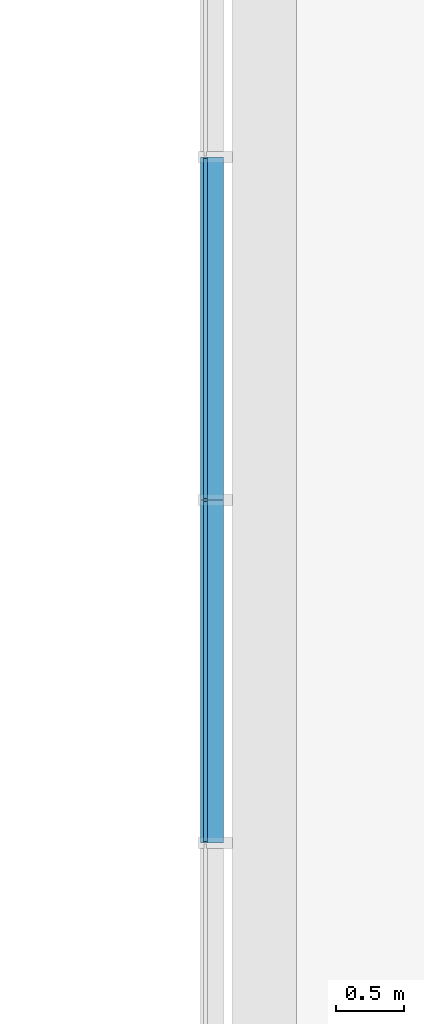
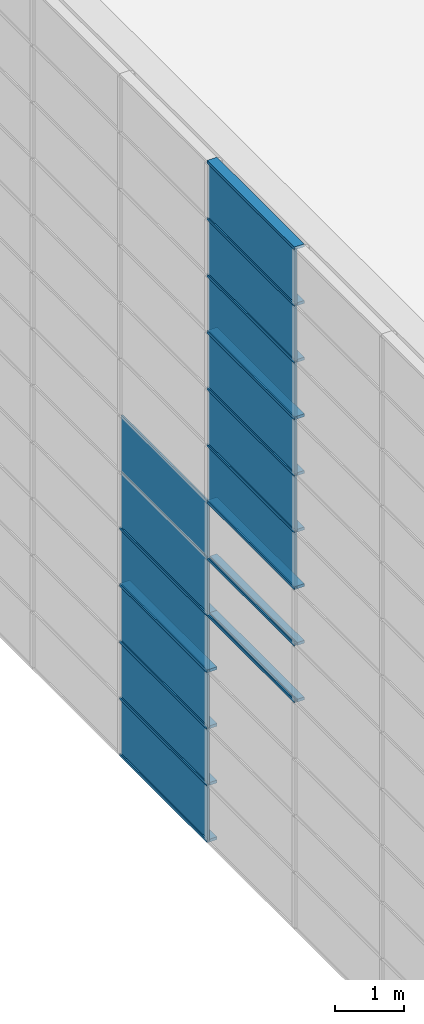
# One storey, part 15 of 105: 29 building element parts, 4 elements without a shape of their own.
"""IFC4 building model written with IfcOpenShell, lengths in millimetres."""

from ifc_helpers import new_model, entity, si_unit, converted_unit, derived_unit, direction, frame, origin_with_axes, place, context, subcontext, project, spatial, triangles, material, element, aggregate, save


model = new_model("IFC4")

# Units and contexts
model_context = context("Model", 3, precision=1e-05, world=origin_with_axes(), true_north=direction((0.0, 1.0)))
body_context = subcontext(model_context, "Body", "Model", "MODEL_VIEW")
ifc_project = project(units=[si_unit("LENGTHUNIT", "METRE", prefix="MILLI"), si_unit("AREAUNIT", "SQUARE_METRE"), si_unit("VOLUMEUNIT", "CUBIC_METRE"), converted_unit("PLANEANGLEUNIT", "DEGREE", entity("IfcLengthMeasure", 0.017453), si_unit("PLANEANGLEUNIT", "RADIAN"), dimensions=[0, 0, 0, 0, 0, 0, 0]), si_unit("SOLIDANGLEUNIT", "STERADIAN"), si_unit("MASSUNIT", "GRAM"), si_unit("TIMEUNIT", "SECOND"), si_unit("THERMODYNAMICTEMPERATUREUNIT", "DEGREE_CELSIUS"), si_unit("LUMINOUSINTENSITYUNIT", "LUMEN"), si_unit("POWERUNIT", "WATT"), derived_unit("THERMALTRANSMITTANCEUNIT", [(si_unit("POWERUNIT", "WATT"), 1), (si_unit("THERMODYNAMICTEMPERATUREUNIT", "KELVIN"), -1), (si_unit("AREAUNIT", "SQUARE_METRE"), -1)])], contexts=[model_context])

# Site, building, storey
site_placement = place(None, origin_with_axes())
site = spatial("IfcSite", under=ifc_project, at=site_placement, Name="Default Site", CompositionType="ELEMENT")
building_placement = place(site_placement, origin_with_axes())
building = spatial("IfcBuilding", under=site, at=building_placement, Name="Default Building", CompositionType="ELEMENT")
storey_placement = place(building_placement, origin_with_axes())
storey = spatial("IfcBuildingStorey", under=building, at=storey_placement, Name="OG - Story", CompositionType="ELEMENT", Elevation=0.0)

# Curtain wall, building element parts
curtain_wall_1_placement = place(storey_placement, origin_with_axes())
curtain_wall_1 = element("IfcCurtainWall", 1, at=curtain_wall_1_placement, inside=storey, Name="Fassade-003", PredefinedType="NOTDEFINED")
ifc_material_1 = material(Name="Normalglas")
building_element_part_1_placement = place(curtain_wall_1_placement, frame((31551.391327, -51326.104944, 0.0), z_axis=(0.0, 0.0, 1.0), x_axis=(1.0, 0.0, 0.0)))
building_element_part_1 = element("IfcBuildingElementPart", 2, at=building_element_part_1_placement, material=ifc_material_1, Name="Normalglas", PredefinedType="NOTDEFINED", context=body_context, shape_type="Tessellation", body=[
    triangles([(15.0, 26516.316, 995.0), (-14.999, 26516.316, 995.0), (-14.999, 24010.0, 995.0), (15.0, 24010.0, 995.0), (15.0, 26516.316, 5.0), (-14.999, 26516.316, 5.0), (-14.999, 24010.0, 5.0), (15.0, 24010.0, 5.0)], [[1, 2, 3], [1, 3, 4], [5, 6, 2], [5, 2, 1], [2, 6, 7], [2, 7, 3], [4, 3, 7], [4, 7, 8], [1, 4, 8], [1, 8, 5], [8, 7, 6], [8, 6, 5]], closed=False),
])
building_element_part_2_placement = place(curtain_wall_1_placement, frame((31551.391327, -51326.104944, 0.0), z_axis=(0.0, 0.0, 1.0), x_axis=(1.0, 0.0, 0.0)))
building_element_part_2 = element("IfcBuildingElementPart", 3, at=building_element_part_2_placement, material=ifc_material_1, Name="Normalglas", PredefinedType="NOTDEFINED", context=body_context, shape_type="Tessellation", body=[
    triangles([(15.0, 26516.316, 1995.0), (-14.999, 26516.316, 1995.0), (-14.999, 24010.0, 1995.0), (15.0, 24010.0, 1995.0), (15.0, 26516.316, 1005.0), (-14.999, 26516.316, 1005.0), (-14.999, 24010.0, 1005.0), (15.0, 24010.0, 1005.0)], [[1, 2, 3], [1, 3, 4], [5, 6, 2], [5, 2, 1], [2, 6, 7], [2, 7, 3], [4, 3, 7], [4, 7, 8], [1, 4, 8], [1, 8, 5], [8, 7, 6], [8, 6, 5]], closed=False),
])
building_element_part_3_placement = place(curtain_wall_1_placement, frame((31551.391327, -51326.104944, 0.0), z_axis=(0.0, 0.0, 1.0), x_axis=(1.0, 0.0, 0.0)))
building_element_part_3 = element("IfcBuildingElementPart", 4, at=building_element_part_3_placement, material=ifc_material_1, Name="Normalglas", PredefinedType="NOTDEFINED", context=body_context, shape_type="Tessellation", body=[
    triangles([(15.0, 26516.316, 2995.0), (-14.999, 26516.316, 2995.0), (-14.999, 24010.0, 2995.0), (15.0, 24010.0, 2995.0), (15.0, 26516.316, 2005.0), (-14.999, 26516.316, 2005.0), (-14.999, 24010.0, 2005.0), (15.0, 24010.0, 2005.0)], [[1, 2, 3], [1, 3, 4], [5, 6, 2], [5, 2, 1], [2, 6, 7], [2, 7, 3], [4, 3, 7], [4, 7, 8], [1, 4, 8], [1, 8, 5], [8, 7, 6], [8, 6, 5]], closed=False),
])
ifc_material_2 = material(Name="Blech")
building_element_part_4_placement = place(curtain_wall_1_placement, frame((31551.391327, -51326.104944, 0.0), z_axis=(0.0, 0.0, 1.0), x_axis=(1.0, 0.0, 0.0)))
building_element_part_4 = element("IfcBuildingElementPart", 5, at=building_element_part_4_placement, material=ifc_material_2, Name="Blech", PredefinedType="NOTDEFINED", context=body_context, shape_type="Tessellation", body=[
    triangles([(15.0, 26526.316, 25.0), (133.0, 26526.316, 25.0), (15.0, 26526.316, 5.0), (133.0, 26526.316, -24.999), (-14.999, 26526.316, 5.0), (-34.999, 26526.316, -24.999), (-34.999, 26526.316, 25.0), (-14.999, 26526.316, 25.0), (15.0, 24000.0, 5.0), (15.0, 24000.0, 25.0), (133.0, 24000.0, 25.0), (133.0, 24000.0, -24.999), (-34.999, 24000.0, -24.999), (-34.999, 24000.0, 25.0), (-14.999, 24000.0, 25.0), (-14.999, 24000.0, 5.0)], [[1, 2, 3], [3, 2, 4], [3, 4, 5], [5, 4, 6], [5, 6, 7], [5, 7, 8], [3, 9, 10], [3, 10, 1], [10, 11, 2], [10, 2, 1], [11, 12, 4], [11, 4, 2], [12, 13, 6], [12, 6, 4], [13, 14, 7], [13, 7, 6], [8, 7, 14], [8, 14, 15], [15, 16, 5], [15, 5, 8], [5, 16, 9], [5, 9, 3], [16, 9, 12], [16, 12, 13], [16, 13, 14], [16, 14, 15], [11, 12, 9], [11, 9, 10]], closed=False),
])
building_element_part_5_placement = place(curtain_wall_1_placement, frame((31551.391327, -51326.104944, 0.0), z_axis=(0.0, 0.0, 1.0), x_axis=(1.0, 0.0, 0.0)))
building_element_part_5 = element("IfcBuildingElementPart", 6, at=building_element_part_5_placement, material=ifc_material_2, Name="Blech", PredefinedType="NOTDEFINED", context=body_context, shape_type="Tessellation", body=[
    triangles([(-14.999, 26526.316, 1025.0), (-34.999, 26526.316, 1025.0), (-14.999, 26526.316, 1005.0), (-14.999, 26526.316, 995.0), (15.0, 26526.316, 1005.0), (133.0, 26526.316, 1025.0), (15.0, 26526.316, 1025.0), (-34.999, 26526.316, 975.0), (-14.999, 26526.316, 975.0), (15.0, 26526.316, 995.0), (15.0, 26526.316, 975.0), (133.0, 26526.316, 975.0), (15.0, 24000.0, 995.0), (-14.999, 24000.0, 995.0), (-14.999, 24000.0, 975.0), (-34.999, 24000.0, 975.0), (-34.999, 24000.0, 1025.0), (-14.999, 24000.0, 1025.0), (-14.999, 24000.0, 1005.0), (15.0, 24000.0, 1005.0), (15.0, 24000.0, 1025.0), (133.0, 24000.0, 1025.0), (133.0, 24000.0, 975.0), (15.0, 24000.0, 975.0)], [[1, 2, 3], [3, 2, 4], [3, 4, 5], [5, 4, 6], [5, 6, 7], [8, 9, 4], [8, 4, 2], [6, 4, 10], [6, 10, 11], [6, 11, 12], [10, 13, 14], [10, 14, 4], [4, 14, 15], [4, 15, 9], [15, 16, 8], [15, 8, 9], [8, 16, 17], [8, 17, 2], [18, 1, 2], [18, 2, 17], [1, 18, 19], [1, 19, 3], [5, 3, 19], [5, 19, 20], [7, 5, 20], [7, 20, 21], [7, 21, 22], [7, 22, 6], [6, 22, 23], [6, 23, 12], [11, 12, 23], [11, 23, 24], [11, 24, 13], [11, 13, 10], [21, 22, 20], [20, 22, 13], [20, 13, 19], [19, 13, 14], [19, 14, 17], [17, 14, 15], [17, 15, 16], [23, 24, 13], [23, 13, 22], [19, 17, 18]], closed=False),
])
building_element_part_6_placement = place(curtain_wall_1_placement, frame((31551.391327, -51326.104944, 0.0), z_axis=(0.0, 0.0, 1.0), x_axis=(1.0, 0.0, 0.0)))
building_element_part_6 = element("IfcBuildingElementPart", 7, at=building_element_part_6_placement, material=ifc_material_2, Name="Blech", PredefinedType="NOTDEFINED", context=body_context, shape_type="Tessellation", body=[
    triangles([(-14.999, 26526.316, 2025.0), (-34.999, 26526.316, 2025.0), (-14.999, 26526.316, 2005.0), (-14.999, 26526.316, 1995.0), (15.0, 26526.316, 2005.0), (133.0, 26526.316, 2025.0), (15.0, 26526.316, 2025.0), (-34.999, 26526.316, 1975.0), (-14.999, 26526.316, 1975.0), (15.0, 26526.316, 1995.0), (15.0, 26526.316, 1975.0), (133.0, 26526.316, 1975.0), (15.0, 24000.0, 1995.0), (-14.999, 24000.0, 1995.0), (-14.999, 24000.0, 1975.0), (-34.999, 24000.0, 1975.0), (-34.999, 24000.0, 2025.0), (-14.999, 24000.0, 2025.0), (-14.999, 24000.0, 2005.0), (15.0, 24000.0, 2005.0), (15.0, 24000.0, 2025.0), (133.0, 24000.0, 2025.0), (133.0, 24000.0, 1975.0), (15.0, 24000.0, 1975.0)], [[1, 2, 3], [3, 2, 4], [3, 4, 5], [5, 4, 6], [5, 6, 7], [8, 9, 4], [8, 4, 2], [6, 4, 10], [6, 10, 11], [6, 11, 12], [10, 13, 14], [10, 14, 4], [4, 14, 15], [4, 15, 9], [15, 16, 8], [15, 8, 9], [8, 16, 17], [8, 17, 2], [18, 1, 2], [18, 2, 17], [1, 18, 19], [1, 19, 3], [5, 3, 19], [5, 19, 20], [7, 5, 20], [7, 20, 21], [7, 21, 22], [7, 22, 6], [6, 22, 23], [6, 23, 12], [11, 12, 23], [11, 23, 24], [11, 24, 13], [11, 13, 10], [21, 22, 20], [20, 22, 13], [20, 13, 19], [19, 13, 14], [19, 14, 17], [17, 14, 15], [17, 15, 16], [23, 24, 13], [23, 13, 22], [19, 17, 18]], closed=False),
])
building_element_part_7_placement = place(curtain_wall_1_placement, frame((31551.391327, -51326.104944, 0.0), z_axis=(0.0, 0.0, 1.0), x_axis=(1.0, 0.0, 0.0)))
building_element_part_7 = element("IfcBuildingElementPart", 8, at=building_element_part_7_placement, material=ifc_material_2, Name="Blech", PredefinedType="NOTDEFINED", context=body_context, shape_type="Tessellation", body=[
    triangles([(-14.999, 26526.316, 2995.0), (15.0, 26526.316, 2995.0), (133.0, 26526.316, 3025.0), (-34.999, 26526.316, 3025.0), (-34.999, 26526.316, 2975.0), (-14.999, 26526.316, 2975.0), (15.0, 26526.316, 2975.0), (133.0, 26526.316, 2975.0), (15.0, 24000.0, 2995.0), (-14.999, 24000.0, 2995.0), (-14.999, 24000.0, 2975.0), (-34.999, 24000.0, 2975.0), (-34.999, 24000.0, 3025.0), (133.0, 24000.0, 3025.0), (133.0, 24000.0, 2975.0), (15.0, 24000.0, 2975.0)], [[1, 2, 3], [1, 3, 4], [1, 4, 5], [1, 5, 6], [7, 8, 3], [7, 3, 2], [1, 2, 9], [1, 9, 10], [11, 6, 1], [11, 1, 10], [6, 11, 12], [6, 12, 5], [13, 4, 5], [13, 5, 12], [14, 3, 4], [14, 4, 13], [15, 8, 3], [15, 3, 14], [16, 7, 8], [16, 8, 15], [2, 7, 16], [2, 16, 9], [10, 9, 14], [10, 14, 13], [10, 13, 12], [10, 12, 11], [16, 15, 14], [16, 14, 9]], closed=False),
])
aggregate(curtain_wall_1, [building_element_part_1, building_element_part_2, building_element_part_3, building_element_part_4, building_element_part_5, building_element_part_6, building_element_part_7])

curtain_wall_2_placement = place(storey_placement, origin_with_axes())
curtain_wall_2 = element("IfcCurtainWall", 9, at=curtain_wall_2_placement, inside=storey, Name="Fassade-003", PredefinedType="NOTDEFINED")
building_element_part_8_placement = place(curtain_wall_2_placement, frame((31551.391327, -51326.104944, 3000.0), z_axis=(0.0, 0.0, 1.0), x_axis=(1.0, 0.0, 0.0)))
building_element_part_8 = element("IfcBuildingElementPart", 10, at=building_element_part_8_placement, material=ifc_material_1, Name="Normalglas", PredefinedType="NOTDEFINED", context=body_context, shape_type="Tessellation", body=[
    triangles([(15.0, 26516.316, 995.0), (-14.999, 26516.316, 995.0), (-14.999, 24010.0, 995.0), (15.0, 24010.0, 995.0), (15.0, 26516.316, 5.0), (-14.999, 26516.316, 5.0), (-14.999, 24010.0, 5.0), (15.0, 24010.0, 5.0)], [[1, 2, 3], [1, 3, 4], [5, 6, 2], [5, 2, 1], [2, 6, 7], [2, 7, 3], [4, 3, 7], [4, 7, 8], [1, 4, 8], [1, 8, 5], [8, 7, 6], [8, 6, 5]], closed=False),
])
building_element_part_9_placement = place(curtain_wall_2_placement, frame((31551.391327, -51326.104944, 3000.0), z_axis=(0.0, 0.0, 1.0), x_axis=(1.0, 0.0, 0.0)))
building_element_part_9 = element("IfcBuildingElementPart", 11, at=building_element_part_9_placement, material=ifc_material_1, Name="Normalglas", PredefinedType="NOTDEFINED", context=body_context, shape_type="Tessellation", body=[
    triangles([(15.0, 26516.316, 1995.0), (-14.999, 26516.316, 1995.0), (-14.999, 24010.0, 1995.0), (15.0, 24010.0, 1995.0), (15.0, 26516.316, 1005.0), (-14.999, 26516.316, 1005.0), (-14.999, 24010.0, 1005.0), (15.0, 24010.0, 1005.0)], [[1, 2, 3], [1, 3, 4], [5, 6, 2], [5, 2, 1], [2, 6, 7], [2, 7, 3], [4, 3, 7], [4, 7, 8], [1, 4, 8], [1, 8, 5], [8, 7, 6], [8, 6, 5]], closed=False),
])
building_element_part_10_placement = place(curtain_wall_2_placement, frame((31551.391327, -51326.104944, 3000.0), z_axis=(0.0, 0.0, 1.0), x_axis=(1.0, 0.0, 0.0)))
building_element_part_10 = element("IfcBuildingElementPart", 12, at=building_element_part_10_placement, material=ifc_material_1, Name="Normalglas", PredefinedType="NOTDEFINED", context=body_context, shape_type="Tessellation", body=[
    triangles([(15.0, 26516.316, 2995.0), (-14.999, 26516.316, 2995.0), (-14.999, 24010.0, 2995.0), (15.0, 24010.0, 2995.0), (15.0, 26516.316, 2005.0), (-14.999, 26516.316, 2005.0), (-14.999, 24010.0, 2005.0), (15.0, 24010.0, 2005.0)], [[1, 2, 3], [1, 3, 4], [5, 6, 2], [5, 2, 1], [2, 6, 7], [2, 7, 3], [4, 3, 7], [4, 7, 8], [1, 4, 8], [1, 8, 5], [8, 7, 6], [8, 6, 5]], closed=False),
])
building_element_part_11_placement = place(curtain_wall_2_placement, frame((31551.391327, -51326.104944, 3000.0), z_axis=(0.0, 0.0, 1.0), x_axis=(1.0, 0.0, 0.0)))
building_element_part_11 = element("IfcBuildingElementPart", 13, at=building_element_part_11_placement, material=ifc_material_2, Name="Blech", PredefinedType="NOTDEFINED", context=body_context, shape_type="Tessellation", body=[
    triangles([(15.0, 26526.316, 25.0), (133.0, 26526.316, 25.0), (15.0, 26526.316, 5.0), (133.0, 26526.316, -24.999), (-14.999, 26526.316, 5.0), (-34.999, 26526.316, -24.999), (-34.999, 26526.316, 25.0), (-14.999, 26526.316, 25.0), (15.0, 24000.0, 5.0), (15.0, 24000.0, 25.0), (133.0, 24000.0, 25.0), (133.0, 24000.0, -24.999), (-34.999, 24000.0, -24.999), (-34.999, 24000.0, 25.0), (-14.999, 24000.0, 25.0), (-14.999, 24000.0, 5.0)], [[1, 2, 3], [3, 2, 4], [3, 4, 5], [5, 4, 6], [5, 6, 7], [5, 7, 8], [3, 9, 10], [3, 10, 1], [10, 11, 2], [10, 2, 1], [11, 12, 4], [11, 4, 2], [12, 13, 6], [12, 6, 4], [13, 14, 7], [13, 7, 6], [8, 7, 14], [8, 14, 15], [15, 16, 5], [15, 5, 8], [5, 16, 9], [5, 9, 3], [16, 9, 12], [16, 12, 13], [16, 13, 14], [16, 14, 15], [11, 12, 9], [11, 9, 10]], closed=False),
])
building_element_part_12_placement = place(curtain_wall_2_placement, frame((31551.391327, -51326.104944, 3000.0), z_axis=(0.0, 0.0, 1.0), x_axis=(1.0, 0.0, 0.0)))
building_element_part_12 = element("IfcBuildingElementPart", 14, at=building_element_part_12_placement, material=ifc_material_2, Name="Blech", PredefinedType="NOTDEFINED", context=body_context, shape_type="Tessellation", body=[
    triangles([(-14.999, 24000.0, 1025.0), (-34.999, 24000.0, 1025.0), (-14.999, 24000.0, 1005.0), (-14.999, 24000.0, 995.0), (15.0, 24000.0, 1005.0), (133.0, 24000.0, 1025.0), (15.0, 24000.0, 1025.0), (-34.999, 24000.0, 975.0), (-14.999, 24000.0, 975.0), (15.0, 24000.0, 995.0), (15.0, 24000.0, 975.0), (133.0, 24000.0, 975.0), (15.0, 21473.684, 995.0), (-14.999, 21473.684, 995.0), (-14.999, 21473.684, 975.0), (-34.999, 21473.684, 975.0), (-34.999, 21473.684, 1025.0), (-14.999, 21473.684, 1025.0), (-14.999, 21473.684, 1005.0), (15.0, 21473.684, 1005.0), (15.0, 21473.684, 1025.0), (133.0, 21473.684, 1025.0), (133.0, 21473.684, 975.0), (15.0, 21473.684, 975.0)], [[1, 2, 3], [3, 2, 4], [3, 4, 5], [5, 4, 6], [5, 6, 7], [8, 9, 4], [8, 4, 2], [6, 4, 10], [6, 10, 11], [6, 11, 12], [10, 13, 14], [10, 14, 4], [4, 14, 15], [4, 15, 9], [15, 16, 8], [15, 8, 9], [8, 16, 17], [8, 17, 2], [18, 1, 2], [18, 2, 17], [1, 18, 19], [1, 19, 3], [5, 3, 19], [5, 19, 20], [7, 5, 20], [7, 20, 21], [7, 21, 22], [7, 22, 6], [6, 22, 23], [6, 23, 12], [11, 12, 23], [11, 23, 24], [11, 24, 13], [11, 13, 10], [21, 22, 20], [20, 22, 13], [20, 13, 19], [19, 13, 14], [19, 14, 17], [17, 14, 15], [17, 15, 16], [23, 24, 13], [23, 13, 22], [19, 17, 18]], closed=False),
])
building_element_part_13_placement = place(curtain_wall_2_placement, frame((31551.391327, -51326.104944, 3000.0), z_axis=(0.0, 0.0, 1.0), x_axis=(1.0, 0.0, 0.0)))
building_element_part_13 = element("IfcBuildingElementPart", 15, at=building_element_part_13_placement, material=ifc_material_2, Name="Blech", PredefinedType="NOTDEFINED", context=body_context, shape_type="Tessellation", body=[
    triangles([(-14.999, 26526.316, 1025.0), (-34.999, 26526.316, 1025.0), (-14.999, 26526.316, 1005.0), (-14.999, 26526.316, 995.0), (15.0, 26526.316, 1005.0), (133.0, 26526.316, 1025.0), (15.0, 26526.316, 1025.0), (-34.999, 26526.316, 975.0), (-14.999, 26526.316, 975.0), (15.0, 26526.316, 995.0), (15.0, 26526.316, 975.0), (133.0, 26526.316, 975.0), (15.0, 24000.0, 995.0), (-14.999, 24000.0, 995.0), (-14.999, 24000.0, 975.0), (-34.999, 24000.0, 975.0), (-34.999, 24000.0, 1025.0), (-14.999, 24000.0, 1025.0), (-14.999, 24000.0, 1005.0), (15.0, 24000.0, 1005.0), (15.0, 24000.0, 1025.0), (133.0, 24000.0, 1025.0), (133.0, 24000.0, 975.0), (15.0, 24000.0, 975.0)], [[1, 2, 3], [3, 2, 4], [3, 4, 5], [5, 4, 6], [5, 6, 7], [8, 9, 4], [8, 4, 2], [6, 4, 10], [6, 10, 11], [6, 11, 12], [10, 13, 14], [10, 14, 4], [4, 14, 15], [4, 15, 9], [15, 16, 8], [15, 8, 9], [8, 16, 17], [8, 17, 2], [18, 1, 2], [18, 2, 17], [1, 18, 19], [1, 19, 3], [5, 3, 19], [5, 19, 20], [7, 5, 20], [7, 20, 21], [7, 21, 22], [7, 22, 6], [6, 22, 23], [6, 23, 12], [11, 12, 23], [11, 23, 24], [11, 24, 13], [11, 13, 10], [21, 22, 20], [20, 22, 13], [20, 13, 19], [19, 13, 14], [19, 14, 17], [17, 14, 15], [17, 15, 16], [23, 24, 13], [23, 13, 22], [19, 17, 18]], closed=False),
])
building_element_part_14_placement = place(curtain_wall_2_placement, frame((31551.391327, -51326.104944, 3000.0), z_axis=(0.0, 0.0, 1.0), x_axis=(1.0, 0.0, 0.0)))
building_element_part_14 = element("IfcBuildingElementPart", 16, at=building_element_part_14_placement, material=ifc_material_2, Name="Blech", PredefinedType="NOTDEFINED", context=body_context, shape_type="Tessellation", body=[
    triangles([(-14.999, 24000.0, 2025.0), (-34.999, 24000.0, 2025.0), (-14.999, 24000.0, 2005.0), (-14.999, 24000.0, 1995.0), (15.0, 24000.0, 2005.0), (133.0, 24000.0, 2025.0), (15.0, 24000.0, 2025.0), (-34.999, 24000.0, 1975.0), (-14.999, 24000.0, 1975.0), (15.0, 24000.0, 1995.0), (15.0, 24000.0, 1975.0), (133.0, 24000.0, 1975.0), (15.0, 21473.684, 1995.0), (-14.999, 21473.684, 1995.0), (-14.999, 21473.684, 1975.0), (-34.999, 21473.684, 1975.0), (-34.999, 21473.684, 2025.0), (-14.999, 21473.684, 2025.0), (-14.999, 21473.684, 2005.0), (15.0, 21473.684, 2005.0), (15.0, 21473.684, 2025.0), (133.0, 21473.684, 2025.0), (133.0, 21473.684, 1975.0), (15.0, 21473.684, 1975.0)], [[1, 2, 3], [3, 2, 4], [3, 4, 5], [5, 4, 6], [5, 6, 7], [8, 9, 4], [8, 4, 2], [6, 4, 10], [6, 10, 11], [6, 11, 12], [10, 13, 14], [10, 14, 4], [4, 14, 15], [4, 15, 9], [15, 16, 8], [15, 8, 9], [8, 16, 17], [8, 17, 2], [18, 1, 2], [18, 2, 17], [1, 18, 19], [1, 19, 3], [5, 3, 19], [5, 19, 20], [7, 5, 20], [7, 20, 21], [7, 21, 22], [7, 22, 6], [6, 22, 23], [6, 23, 12], [11, 12, 23], [11, 23, 24], [11, 24, 13], [11, 13, 10], [21, 22, 20], [20, 22, 13], [20, 13, 19], [19, 13, 14], [19, 14, 17], [17, 14, 15], [17, 15, 16], [23, 24, 13], [23, 13, 22], [19, 17, 18]], closed=False),
])
building_element_part_15_placement = place(curtain_wall_2_placement, frame((31551.391327, -51326.104944, 3000.0), z_axis=(0.0, 0.0, 1.0), x_axis=(1.0, 0.0, 0.0)))
building_element_part_15 = element("IfcBuildingElementPart", 17, at=building_element_part_15_placement, material=ifc_material_2, Name="Blech", PredefinedType="NOTDEFINED", context=body_context, shape_type="Tessellation", body=[
    triangles([(-14.999, 24000.0, 2995.0), (15.0, 24000.0, 2995.0), (133.0, 24000.0, 3025.0), (-34.999, 24000.0, 3025.0), (-34.999, 24000.0, 2975.0), (-14.999, 24000.0, 2975.0), (15.0, 24000.0, 2975.0), (133.0, 24000.0, 2975.0), (15.0, 21473.684, 2995.0), (-14.999, 21473.684, 2995.0), (-14.999, 21473.684, 2975.0), (-34.999, 21473.684, 2975.0), (-34.999, 21473.684, 3025.0), (133.0, 21473.684, 3025.0), (133.0, 21473.684, 2975.0), (15.0, 21473.684, 2975.0)], [[1, 2, 3], [1, 3, 4], [1, 4, 5], [1, 5, 6], [7, 8, 3], [7, 3, 2], [1, 2, 9], [1, 9, 10], [11, 6, 1], [11, 1, 10], [6, 11, 12], [6, 12, 5], [13, 4, 5], [13, 5, 12], [14, 3, 4], [14, 4, 13], [15, 8, 3], [15, 3, 14], [16, 7, 8], [16, 8, 15], [2, 7, 16], [2, 16, 9], [10, 9, 14], [10, 14, 13], [10, 13, 12], [10, 12, 11], [16, 15, 14], [16, 14, 9]], closed=False),
])
aggregate(curtain_wall_2, [building_element_part_8, building_element_part_9, building_element_part_10, building_element_part_11, building_element_part_12, building_element_part_13, building_element_part_14, building_element_part_15])

curtain_wall_3_placement = place(storey_placement, origin_with_axes())
curtain_wall_3 = element("IfcCurtainWall", 18, at=curtain_wall_3_placement, inside=storey, Name="Fassade-003", PredefinedType="NOTDEFINED")
building_element_part_16_placement = place(curtain_wall_3_placement, frame((31551.391327, -51326.104944, 6000.0), z_axis=(0.0, 0.0, 1.0), x_axis=(1.0, 0.0, 0.0)))
building_element_part_16 = element("IfcBuildingElementPart", 19, at=building_element_part_16_placement, material=ifc_material_1, Name="Normalglas", PredefinedType="NOTDEFINED", context=body_context, shape_type="Tessellation", body=[
    triangles([(15.0, 23990.0, 995.0), (-14.999, 23990.0, 995.0), (-14.999, 21483.684, 995.0), (15.0, 21483.684, 995.0), (15.0, 23990.0, 5.0), (-14.999, 23990.0, 5.0), (-14.999, 21483.684, 5.0), (15.0, 21483.684, 5.0)], [[1, 2, 3], [1, 3, 4], [5, 6, 2], [5, 2, 1], [2, 6, 7], [2, 7, 3], [4, 3, 7], [4, 7, 8], [1, 4, 8], [1, 8, 5], [8, 7, 6], [8, 6, 5]], closed=False),
])
building_element_part_17_placement = place(curtain_wall_3_placement, frame((31551.391327, -51326.104944, 6000.0), z_axis=(0.0, 0.0, 1.0), x_axis=(1.0, 0.0, 0.0)))
building_element_part_17 = element("IfcBuildingElementPart", 20, at=building_element_part_17_placement, material=ifc_material_1, Name="Normalglas", PredefinedType="NOTDEFINED", context=body_context, shape_type="Tessellation", body=[
    triangles([(15.0, 23990.0, 1995.0), (-14.999, 23990.0, 1995.0), (-14.999, 21483.684, 1995.0), (15.0, 21483.684, 1995.0), (15.0, 23990.0, 1005.0), (-14.999, 23990.0, 1005.0), (-14.999, 21483.684, 1005.0), (15.0, 21483.684, 1005.0)], [[1, 2, 3], [1, 3, 4], [5, 6, 2], [5, 2, 1], [2, 6, 7], [2, 7, 3], [4, 3, 7], [4, 7, 8], [1, 4, 8], [1, 8, 5], [8, 7, 6], [8, 6, 5]], closed=False),
])
building_element_part_18_placement = place(curtain_wall_3_placement, frame((31551.391327, -51326.104944, 6000.0), z_axis=(0.0, 0.0, 1.0), x_axis=(1.0, 0.0, 0.0)))
building_element_part_18 = element("IfcBuildingElementPart", 21, at=building_element_part_18_placement, material=ifc_material_1, Name="Normalglas", PredefinedType="NOTDEFINED", context=body_context, shape_type="Tessellation", body=[
    triangles([(15.0, 23990.0, 2995.0), (-14.999, 23990.0, 2995.0), (-14.999, 21483.684, 2995.0), (15.0, 21483.684, 2995.0), (15.0, 23990.0, 2005.0), (-14.999, 23990.0, 2005.0), (-14.999, 21483.684, 2005.0), (15.0, 21483.684, 2005.0)], [[1, 2, 3], [1, 3, 4], [5, 6, 2], [5, 2, 1], [2, 6, 7], [2, 7, 3], [4, 3, 7], [4, 7, 8], [1, 4, 8], [1, 8, 5], [8, 7, 6], [8, 6, 5]], closed=False),
])
building_element_part_19_placement = place(curtain_wall_3_placement, frame((31551.391327, -51326.104944, 6000.0), z_axis=(0.0, 0.0, 1.0), x_axis=(1.0, 0.0, 0.0)))
building_element_part_19 = element("IfcBuildingElementPart", 22, at=building_element_part_19_placement, material=ifc_material_2, Name="Blech", PredefinedType="NOTDEFINED", context=body_context, shape_type="Tessellation", body=[
    triangles([(15.0, 24000.0, 25.0), (133.0, 24000.0, 25.0), (15.0, 24000.0, 5.0), (133.0, 24000.0, -24.999), (-14.999, 24000.0, 5.0), (-34.999, 24000.0, -24.999), (-34.999, 24000.0, 25.0), (-14.999, 24000.0, 25.0), (15.0, 21473.684, 5.0), (15.0, 21473.684, 25.0), (133.0, 21473.684, 25.0), (133.0, 21473.684, -24.999), (-34.999, 21473.684, -24.999), (-34.999, 21473.684, 25.0), (-14.999, 21473.684, 25.0), (-14.999, 21473.684, 5.0)], [[1, 2, 3], [3, 2, 4], [3, 4, 5], [5, 4, 6], [5, 6, 7], [5, 7, 8], [3, 9, 10], [3, 10, 1], [10, 11, 2], [10, 2, 1], [11, 12, 4], [11, 4, 2], [12, 13, 6], [12, 6, 4], [13, 14, 7], [13, 7, 6], [8, 7, 14], [8, 14, 15], [15, 16, 5], [15, 5, 8], [5, 16, 9], [5, 9, 3], [16, 9, 12], [16, 12, 13], [16, 13, 14], [16, 14, 15], [11, 12, 9], [11, 9, 10]], closed=False),
])
building_element_part_20_placement = place(curtain_wall_3_placement, frame((31551.391327, -51326.104944, 6000.0), z_axis=(0.0, 0.0, 1.0), x_axis=(1.0, 0.0, 0.0)))
building_element_part_20 = element("IfcBuildingElementPart", 23, at=building_element_part_20_placement, material=ifc_material_2, Name="Blech", PredefinedType="NOTDEFINED", context=body_context, shape_type="Tessellation", body=[
    triangles([(-14.999, 24000.0, 1025.0), (-34.999, 24000.0, 1025.0), (-14.999, 24000.0, 1005.0), (-14.999, 24000.0, 995.0), (15.0, 24000.0, 1005.0), (133.0, 24000.0, 1025.0), (15.0, 24000.0, 1025.0), (-34.999, 24000.0, 975.0), (-14.999, 24000.0, 975.0), (15.0, 24000.0, 995.0), (15.0, 24000.0, 975.0), (133.0, 24000.0, 975.0), (15.0, 21473.684, 995.0), (-14.999, 21473.684, 995.0), (-14.999, 21473.684, 975.0), (-34.999, 21473.684, 975.0), (-34.999, 21473.684, 1025.0), (-14.999, 21473.684, 1025.0), (-14.999, 21473.684, 1005.0), (15.0, 21473.684, 1005.0), (15.0, 21473.684, 1025.0), (133.0, 21473.684, 1025.0), (133.0, 21473.684, 975.0), (15.0, 21473.684, 975.0)], [[1, 2, 3], [3, 2, 4], [3, 4, 5], [5, 4, 6], [5, 6, 7], [8, 9, 4], [8, 4, 2], [6, 4, 10], [6, 10, 11], [6, 11, 12], [10, 13, 14], [10, 14, 4], [4, 14, 15], [4, 15, 9], [15, 16, 8], [15, 8, 9], [8, 16, 17], [8, 17, 2], [18, 1, 2], [18, 2, 17], [1, 18, 19], [1, 19, 3], [5, 3, 19], [5, 19, 20], [7, 5, 20], [7, 20, 21], [7, 21, 22], [7, 22, 6], [6, 22, 23], [6, 23, 12], [11, 12, 23], [11, 23, 24], [11, 24, 13], [11, 13, 10], [21, 22, 20], [20, 22, 13], [20, 13, 19], [19, 13, 14], [19, 14, 17], [17, 14, 15], [17, 15, 16], [23, 24, 13], [23, 13, 22], [19, 17, 18]], closed=False),
])
building_element_part_21_placement = place(curtain_wall_3_placement, frame((31551.391327, -51326.104944, 6000.0), z_axis=(0.0, 0.0, 1.0), x_axis=(1.0, 0.0, 0.0)))
building_element_part_21 = element("IfcBuildingElementPart", 24, at=building_element_part_21_placement, material=ifc_material_2, Name="Blech", PredefinedType="NOTDEFINED", context=body_context, shape_type="Tessellation", body=[
    triangles([(-14.999, 24000.0, 2025.0), (-34.999, 24000.0, 2025.0), (-14.999, 24000.0, 2005.0), (-14.999, 24000.0, 1995.0), (15.0, 24000.0, 2005.0), (133.0, 24000.0, 2025.0), (15.0, 24000.0, 2025.0), (-34.999, 24000.0, 1975.0), (-14.999, 24000.0, 1975.0), (15.0, 24000.0, 1995.0), (15.0, 24000.0, 1975.0), (133.0, 24000.0, 1975.0), (15.0, 21473.684, 1995.0), (-14.999, 21473.684, 1995.0), (-14.999, 21473.684, 1975.0), (-34.999, 21473.684, 1975.0), (-34.999, 21473.684, 2025.0), (-14.999, 21473.684, 2025.0), (-14.999, 21473.684, 2005.0), (15.0, 21473.684, 2005.0), (15.0, 21473.684, 2025.0), (133.0, 21473.684, 2025.0), (133.0, 21473.684, 1975.0), (15.0, 21473.684, 1975.0)], [[1, 2, 3], [3, 2, 4], [3, 4, 5], [5, 4, 6], [5, 6, 7], [8, 9, 4], [8, 4, 2], [6, 4, 10], [6, 10, 11], [6, 11, 12], [10, 13, 14], [10, 14, 4], [4, 14, 15], [4, 15, 9], [15, 16, 8], [15, 8, 9], [8, 16, 17], [8, 17, 2], [18, 1, 2], [18, 2, 17], [1, 18, 19], [1, 19, 3], [5, 3, 19], [5, 19, 20], [7, 5, 20], [7, 20, 21], [7, 21, 22], [7, 22, 6], [6, 22, 23], [6, 23, 12], [11, 12, 23], [11, 23, 24], [11, 24, 13], [11, 13, 10], [21, 22, 20], [20, 22, 13], [20, 13, 19], [19, 13, 14], [19, 14, 17], [17, 14, 15], [17, 15, 16], [23, 24, 13], [23, 13, 22], [19, 17, 18]], closed=False),
])
building_element_part_22_placement = place(curtain_wall_3_placement, frame((31551.391327, -51326.104944, 6000.0), z_axis=(0.0, 0.0, 1.0), x_axis=(1.0, 0.0, 0.0)))
building_element_part_22 = element("IfcBuildingElementPart", 25, at=building_element_part_22_placement, material=ifc_material_2, Name="Blech", PredefinedType="NOTDEFINED", context=body_context, shape_type="Tessellation", body=[
    triangles([(-14.999, 24000.0, 2995.0), (15.0, 24000.0, 2995.0), (133.0, 24000.0, 3025.0), (-34.999, 24000.0, 3025.0), (-34.999, 24000.0, 2975.0), (-14.999, 24000.0, 2975.0), (15.0, 24000.0, 2975.0), (133.0, 24000.0, 2975.0), (15.0, 21473.684, 2995.0), (-14.999, 21473.684, 2995.0), (-14.999, 21473.684, 2975.0), (-34.999, 21473.684, 2975.0), (-34.999, 21473.684, 3025.0), (133.0, 21473.684, 3025.0), (133.0, 21473.684, 2975.0), (15.0, 21473.684, 2975.0)], [[1, 2, 3], [1, 3, 4], [1, 4, 5], [1, 5, 6], [7, 8, 3], [7, 3, 2], [1, 2, 9], [1, 9, 10], [11, 6, 1], [11, 1, 10], [6, 11, 12], [6, 12, 5], [13, 4, 5], [13, 5, 12], [14, 3, 4], [14, 4, 13], [15, 8, 3], [15, 3, 14], [16, 7, 8], [16, 8, 15], [2, 7, 16], [2, 16, 9], [10, 9, 14], [10, 14, 13], [10, 13, 12], [10, 12, 11], [16, 15, 14], [16, 14, 9]], closed=False),
])
aggregate(curtain_wall_3, [building_element_part_16, building_element_part_17, building_element_part_18, building_element_part_19, building_element_part_20, building_element_part_21, building_element_part_22])

curtain_wall_4_placement = place(storey_placement, origin_with_axes())
curtain_wall_4 = element("IfcCurtainWall", 26, at=curtain_wall_4_placement, inside=storey, Name="Fassade-003", PredefinedType="NOTDEFINED")
building_element_part_23_placement = place(curtain_wall_4_placement, frame((31551.391327, -51326.104944, 9000.0), z_axis=(0.0, 0.0, 1.0), x_axis=(1.0, 0.0, 0.0)))
building_element_part_23 = element("IfcBuildingElementPart", 27, at=building_element_part_23_placement, material=ifc_material_1, Name="Normalglas", PredefinedType="NOTDEFINED", context=body_context, shape_type="Tessellation", body=[
    triangles([(15.0, 23990.0, 995.0), (-14.999, 23990.0, 995.0), (-14.999, 21483.684, 995.0), (15.0, 21483.684, 995.0), (15.0, 23990.0, 5.0), (-14.999, 23990.0, 5.0), (-14.999, 21483.684, 5.0), (15.0, 21483.684, 5.0)], [[1, 2, 3], [1, 3, 4], [5, 6, 2], [5, 2, 1], [2, 6, 7], [2, 7, 3], [4, 3, 7], [4, 7, 8], [1, 4, 8], [1, 8, 5], [8, 7, 6], [8, 6, 5]], closed=False),
])
building_element_part_24_placement = place(curtain_wall_4_placement, frame((31551.391327, -51326.104944, 9000.0), z_axis=(0.0, 0.0, 1.0), x_axis=(1.0, 0.0, 0.0)))
building_element_part_24 = element("IfcBuildingElementPart", 28, at=building_element_part_24_placement, material=ifc_material_1, Name="Normalglas", PredefinedType="NOTDEFINED", context=body_context, shape_type="Tessellation", body=[
    triangles([(15.0, 23990.0, 1995.0), (-14.999, 23990.0, 1995.0), (-14.999, 21483.684, 1995.0), (15.0, 21483.684, 1995.0), (15.0, 23990.0, 1005.0), (-14.999, 23990.0, 1005.0), (-14.999, 21483.684, 1005.0), (15.0, 21483.684, 1005.0)], [[1, 2, 3], [1, 3, 4], [5, 6, 2], [5, 2, 1], [2, 6, 7], [2, 7, 3], [4, 3, 7], [4, 7, 8], [1, 4, 8], [1, 8, 5], [8, 7, 6], [8, 6, 5]], closed=False),
])
building_element_part_25_placement = place(curtain_wall_4_placement, frame((31551.391327, -51326.104944, 9000.0), z_axis=(0.0, 0.0, 1.0), x_axis=(1.0, 0.0, 0.0)))
building_element_part_25 = element("IfcBuildingElementPart", 29, at=building_element_part_25_placement, material=ifc_material_1, Name="Normalglas", PredefinedType="NOTDEFINED", context=body_context, shape_type="Tessellation", body=[
    triangles([(15.0, 23990.0, 2995.0), (-14.999, 23990.0, 2995.0), (-14.999, 21483.684, 2995.0), (15.0, 21483.684, 2995.0), (15.0, 23990.0, 2005.0), (-14.999, 23990.0, 2005.0), (-14.999, 21483.684, 2005.0), (15.0, 21483.684, 2005.0)], [[1, 2, 3], [1, 3, 4], [5, 6, 2], [5, 2, 1], [2, 6, 7], [2, 7, 3], [4, 3, 7], [4, 7, 8], [1, 4, 8], [1, 8, 5], [8, 7, 6], [8, 6, 5]], closed=False),
])
building_element_part_26_placement = place(curtain_wall_4_placement, frame((31551.391327, -51326.104944, 9000.0), z_axis=(0.0, 0.0, 1.0), x_axis=(1.0, 0.0, 0.0)))
building_element_part_26 = element("IfcBuildingElementPart", 30, at=building_element_part_26_placement, material=ifc_material_2, Name="Blech", PredefinedType="NOTDEFINED", context=body_context, shape_type="Tessellation", body=[
    triangles([(15.0, 24000.0, 25.0), (133.0, 24000.0, 25.0), (15.0, 24000.0, 5.0), (133.0, 24000.0, -24.999), (-14.999, 24000.0, 5.0), (-34.999, 24000.0, -24.999), (-34.999, 24000.0, 25.0), (-14.999, 24000.0, 25.0), (15.0, 21473.684, 5.0), (15.0, 21473.684, 25.0), (133.0, 21473.684, 25.0), (133.0, 21473.684, -24.999), (-34.999, 21473.684, -24.999), (-34.999, 21473.684, 25.0), (-14.999, 21473.684, 25.0), (-14.999, 21473.684, 5.0)], [[1, 2, 3], [3, 2, 4], [3, 4, 5], [5, 4, 6], [5, 6, 7], [5, 7, 8], [3, 9, 10], [3, 10, 1], [10, 11, 2], [10, 2, 1], [11, 12, 4], [11, 4, 2], [12, 13, 6], [12, 6, 4], [13, 14, 7], [13, 7, 6], [8, 7, 14], [8, 14, 15], [15, 16, 5], [15, 5, 8], [5, 16, 9], [5, 9, 3], [16, 9, 12], [16, 12, 13], [16, 13, 14], [16, 14, 15], [11, 12, 9], [11, 9, 10]], closed=False),
])
building_element_part_27_placement = place(curtain_wall_4_placement, frame((31551.391327, -51326.104944, 9000.0), z_axis=(0.0, 0.0, 1.0), x_axis=(1.0, 0.0, 0.0)))
building_element_part_27 = element("IfcBuildingElementPart", 31, at=building_element_part_27_placement, material=ifc_material_2, Name="Blech", PredefinedType="NOTDEFINED", context=body_context, shape_type="Tessellation", body=[
    triangles([(-14.999, 24000.0, 1025.0), (-34.999, 24000.0, 1025.0), (-14.999, 24000.0, 1005.0), (-14.999, 24000.0, 995.0), (15.0, 24000.0, 1005.0), (133.0, 24000.0, 1025.0), (15.0, 24000.0, 1025.0), (-34.999, 24000.0, 975.0), (-14.999, 24000.0, 975.0), (15.0, 24000.0, 995.0), (15.0, 24000.0, 975.0), (133.0, 24000.0, 975.0), (15.0, 21473.684, 995.0), (-14.999, 21473.684, 995.0), (-14.999, 21473.684, 975.0), (-34.999, 21473.684, 975.0), (-34.999, 21473.684, 1025.0), (-14.999, 21473.684, 1025.0), (-14.999, 21473.684, 1005.0), (15.0, 21473.684, 1005.0), (15.0, 21473.684, 1025.0), (133.0, 21473.684, 1025.0), (133.0, 21473.684, 975.0), (15.0, 21473.684, 975.0)], [[1, 2, 3], [3, 2, 4], [3, 4, 5], [5, 4, 6], [5, 6, 7], [8, 9, 4], [8, 4, 2], [6, 4, 10], [6, 10, 11], [6, 11, 12], [10, 13, 14], [10, 14, 4], [4, 14, 15], [4, 15, 9], [15, 16, 8], [15, 8, 9], [8, 16, 17], [8, 17, 2], [18, 1, 2], [18, 2, 17], [1, 18, 19], [1, 19, 3], [5, 3, 19], [5, 19, 20], [7, 5, 20], [7, 20, 21], [7, 21, 22], [7, 22, 6], [6, 22, 23], [6, 23, 12], [11, 12, 23], [11, 23, 24], [11, 24, 13], [11, 13, 10], [21, 22, 20], [20, 22, 13], [20, 13, 19], [19, 13, 14], [19, 14, 17], [17, 14, 15], [17, 15, 16], [23, 24, 13], [23, 13, 22], [19, 17, 18]], closed=False),
])
building_element_part_28_placement = place(curtain_wall_4_placement, frame((31551.391327, -51326.104944, 9000.0), z_axis=(0.0, 0.0, 1.0), x_axis=(1.0, 0.0, 0.0)))
building_element_part_28 = element("IfcBuildingElementPart", 32, at=building_element_part_28_placement, material=ifc_material_2, Name="Blech", PredefinedType="NOTDEFINED", context=body_context, shape_type="Tessellation", body=[
    triangles([(-14.999, 24000.0, 2025.0), (-34.999, 24000.0, 2025.0), (-14.999, 24000.0, 2005.0), (-14.999, 24000.0, 1995.0), (15.0, 24000.0, 2005.0), (133.0, 24000.0, 2025.0), (15.0, 24000.0, 2025.0), (-34.999, 24000.0, 1975.0), (-14.999, 24000.0, 1975.0), (15.0, 24000.0, 1995.0), (15.0, 24000.0, 1975.0), (133.0, 24000.0, 1975.0), (15.0, 21473.684, 1995.0), (-14.999, 21473.684, 1995.0), (-14.999, 21473.684, 1975.0), (-34.999, 21473.684, 1975.0), (-34.999, 21473.684, 2025.0), (-14.999, 21473.684, 2025.0), (-14.999, 21473.684, 2005.0), (15.0, 21473.684, 2005.0), (15.0, 21473.684, 2025.0), (133.0, 21473.684, 2025.0), (133.0, 21473.684, 1975.0), (15.0, 21473.684, 1975.0)], [[1, 2, 3], [3, 2, 4], [3, 4, 5], [5, 4, 6], [5, 6, 7], [8, 9, 4], [8, 4, 2], [6, 4, 10], [6, 10, 11], [6, 11, 12], [10, 13, 14], [10, 14, 4], [4, 14, 15], [4, 15, 9], [15, 16, 8], [15, 8, 9], [8, 16, 17], [8, 17, 2], [18, 1, 2], [18, 2, 17], [1, 18, 19], [1, 19, 3], [5, 3, 19], [5, 19, 20], [7, 5, 20], [7, 20, 21], [7, 21, 22], [7, 22, 6], [6, 22, 23], [6, 23, 12], [11, 12, 23], [11, 23, 24], [11, 24, 13], [11, 13, 10], [21, 22, 20], [20, 22, 13], [20, 13, 19], [19, 13, 14], [19, 14, 17], [17, 14, 15], [17, 15, 16], [23, 24, 13], [23, 13, 22], [19, 17, 18]], closed=False),
])
building_element_part_29_placement = place(curtain_wall_4_placement, frame((31551.391327, -51326.104944, 9000.0), z_axis=(0.0, 0.0, 1.0), x_axis=(1.0, 0.0, 0.0)))
building_element_part_29 = element("IfcBuildingElementPart", 33, at=building_element_part_29_placement, material=ifc_material_2, Name="Blech", PredefinedType="NOTDEFINED", context=body_context, shape_type="Tessellation", body=[
    triangles([(-14.999, 24000.0, 2995.0), (15.0, 24000.0, 2995.0), (133.0, 24000.0, 3025.0), (-34.999, 24000.0, 3025.0), (-34.999, 24000.0, 2975.0), (-14.999, 24000.0, 2975.0), (15.0, 24000.0, 2975.0), (133.0, 24000.0, 2975.0), (15.0, 21473.684, 2995.0), (-14.999, 21473.684, 2995.0), (-14.999, 21473.684, 2975.0), (-34.999, 21473.684, 2975.0), (-34.999, 21473.684, 3025.0), (133.0, 21473.684, 3025.0), (133.0, 21473.684, 2975.0), (15.0, 21473.684, 2975.0)], [[1, 2, 3], [1, 3, 4], [1, 4, 5], [1, 5, 6], [7, 8, 3], [7, 3, 2], [1, 2, 9], [1, 9, 10], [11, 6, 1], [11, 1, 10], [6, 11, 12], [6, 12, 5], [13, 4, 5], [13, 5, 12], [14, 3, 4], [14, 4, 13], [15, 8, 3], [15, 3, 14], [16, 7, 8], [16, 8, 15], [2, 7, 16], [2, 16, 9], [10, 9, 14], [10, 14, 13], [10, 13, 12], [10, 12, 11], [16, 15, 14], [16, 14, 9]], closed=False),
])
aggregate(curtain_wall_4, [building_element_part_23, building_element_part_24, building_element_part_25, building_element_part_26, building_element_part_27, building_element_part_28, building_element_part_29])

save(model, "model.ifc")
